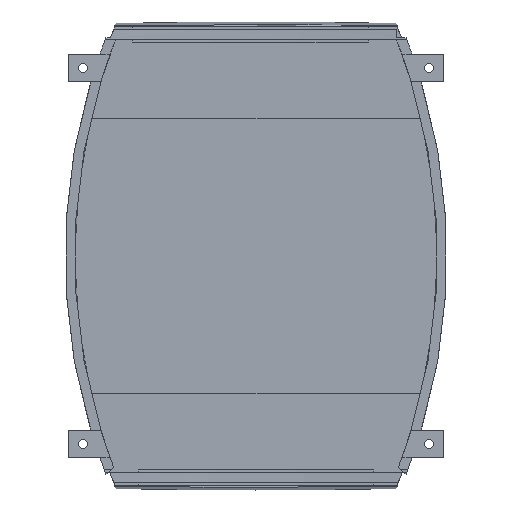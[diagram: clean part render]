
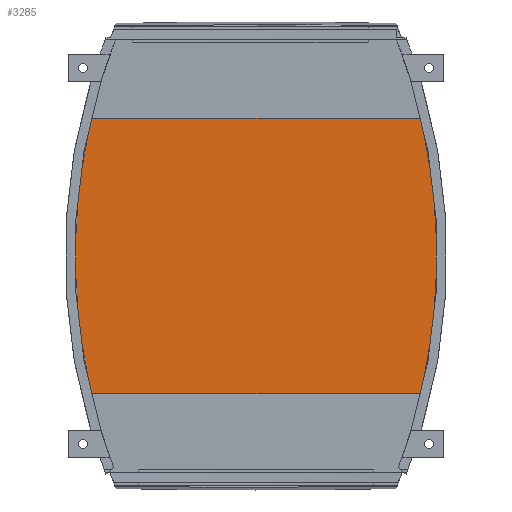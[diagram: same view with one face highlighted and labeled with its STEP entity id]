
A CAD part, front view. The second image highlights one B-rep face of the part: STEP entity #3285.
In plain terms, the highlighted planar face has unit normal (0, -1, 0).
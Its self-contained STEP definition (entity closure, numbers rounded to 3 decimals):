
#465 = EDGE_CURVE ( 'NONE', #4278, #4556, #3487, .T. ) ;
#505 = FACE_OUTER_BOUND ( 'NONE', #1221, .T. ) ;
#608 = DIRECTION ( 'NONE',  ( 0., 1., 0. ) ) ;
#708 = EDGE_CURVE ( 'NONE', #4556, #5094, #1527, .T. ) ;
#759 = AXIS2_PLACEMENT_3D ( 'NONE', #3375, #4728, #2169 ) ;
#1221 = EDGE_LOOP ( 'NONE', ( #4384, #4394, #4457, #4496 ) ) ;
#1527 = CIRCLE ( 'NONE', #5366, 277.423 ) ;
#1613 = AXIS2_PLACEMENT_3D ( 'NONE', #3189, #608, #3629 ) ;
#1714 = DIRECTION ( 'NONE',  ( 0., -1., 0. ) ) ;
#1909 = CARTESIAN_POINT ( 'NONE',  ( 109., -1.1, 64.5 ) ) ;
#1942 = EDGE_CURVE ( 'NONE', #4278, #4730, #4729, .T. ) ;
#2169 = DIRECTION ( 'NONE',  ( 0., 0., -1. ) ) ;
#3152 = CARTESIAN_POINT ( 'NONE',  ( 77.321, -1.1, -64.5 ) ) ;
#3189 = CARTESIAN_POINT ( 'NONE',  ( -192.5, -1.1, 0. ) ) ;
#3285 = ADVANCED_FACE ( 'NONE', ( #505 ), #4277, .T. ) ;
#3375 = CARTESIAN_POINT ( 'NONE',  ( 0., -1.1, 0. ) ) ;
#3482 = VECTOR ( 'NONE', #5334, 1000. ) ;
#3487 = LINE ( 'NONE', #1909, #3482 ) ;
#3617 = CARTESIAN_POINT ( 'NONE',  ( 109., -1.1, -64.5 ) ) ;
#3629 = DIRECTION ( 'NONE',  ( 0., 0., -1. ) ) ;
#4169 = LINE ( 'NONE', #3617, #5085 ) ;
#4229 = CARTESIAN_POINT ( 'NONE',  ( 192.5, -1.1, 0. ) ) ;
#4277 = PLANE ( 'NONE',  #759 ) ;
#4278 = VERTEX_POINT ( 'NONE', #4501 ) ;
#4384 = ORIENTED_EDGE ( 'NONE', *, *, #465, .T. ) ;
#4394 = ORIENTED_EDGE ( 'NONE', *, *, #708, .T. ) ;
#4457 = ORIENTED_EDGE ( 'NONE', *, *, #4775, .T. ) ;
#4496 = ORIENTED_EDGE ( 'NONE', *, *, #1942, .F. ) ;
#4501 = CARTESIAN_POINT ( 'NONE',  ( 77.321, -1.1, 64.5 ) ) ;
#4556 = VERTEX_POINT ( 'NONE', #4788 ) ;
#4658 = CARTESIAN_POINT ( 'NONE',  ( -77.321, -1.1, -64.5 ) ) ;
#4681 = DIRECTION ( 'NONE',  ( 0., 0., -1. ) ) ;
#4728 = DIRECTION ( 'NONE',  ( 0., -1., 0. ) ) ;
#4729 = CIRCLE ( 'NONE', #1613, 277.423 ) ;
#4730 = VERTEX_POINT ( 'NONE', #3152 ) ;
#4775 = EDGE_CURVE ( 'NONE', #5094, #4730, #4169, .T. ) ;
#4788 = CARTESIAN_POINT ( 'NONE',  ( -77.321, -1.1, 64.5 ) ) ;
#4981 = DIRECTION ( 'NONE',  ( 1., 0., 0. ) ) ;
#5085 = VECTOR ( 'NONE', #4981, 1000. ) ;
#5094 = VERTEX_POINT ( 'NONE', #4658 ) ;
#5334 = DIRECTION ( 'NONE',  ( -1., 0., 0. ) ) ;
#5366 = AXIS2_PLACEMENT_3D ( 'NONE', #4229, #1714, #4681 ) ;
